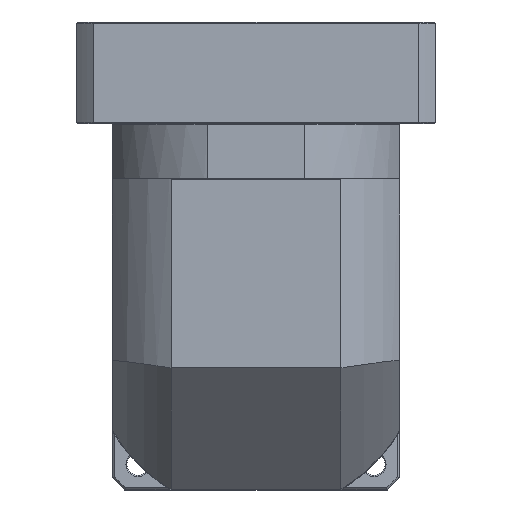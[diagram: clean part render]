
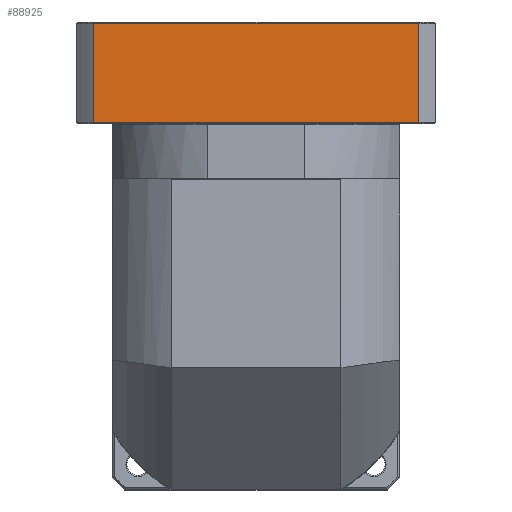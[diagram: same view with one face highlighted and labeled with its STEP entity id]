
A CAD part, top view. The second image highlights one B-rep face of the part: STEP entity #88925.
In plain terms, the highlighted planar face has unit normal (0, 0, 1).
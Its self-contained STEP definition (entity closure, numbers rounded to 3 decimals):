
#3981 = LINE ( 'NONE', #53140, #79084 ) ;
#8755 = EDGE_CURVE ( 'NONE', #89155, #93091, #26104, .T. ) ;
#9695 = DIRECTION ( 'NONE',  ( 0., 0., -1. ) ) ;
#12859 = ORIENTED_EDGE ( 'NONE', *, *, #113451, .F. ) ;
#14185 = DIRECTION ( 'NONE',  ( 0., -1., 0. ) ) ;
#23145 = VERTEX_POINT ( 'NONE', #103669 ) ;
#26104 = LINE ( 'NONE', #97884, #107764 ) ;
#33659 = EDGE_CURVE ( 'NONE', #135695, #23145, #99084, .T. ) ;
#39064 = PLANE ( 'NONE',  #70822 ) ;
#48966 = CARTESIAN_POINT ( 'NONE',  ( -167.411, 242.405, 108.978 ) ) ;
#49541 = ORIENTED_EDGE ( 'NONE', *, *, #88138, .F. ) ;
#53140 = CARTESIAN_POINT ( 'NONE',  ( -167.411, -149.9, 108.978 ) ) ;
#54306 = CARTESIAN_POINT ( 'NONE',  ( -6.426, 193.405, 108.978 ) ) ;
#63660 = DIRECTION ( 'NONE',  ( 1., 0., 0. ) ) ;
#64413 = DIRECTION ( 'NONE',  ( 0., 1., 0. ) ) ;
#70822 = AXIS2_PLACEMENT_3D ( 'NONE', #93651, #9695, #137727 ) ;
#79084 = VECTOR ( 'NONE', #64413, 1000. ) ;
#80664 = EDGE_LOOP ( 'NONE', ( #12859, #83205, #49541, #89035 ) ) ;
#83205 = ORIENTED_EDGE ( 'NONE', *, *, #8755, .F. ) ;
#87017 = LINE ( 'NONE', #111081, #103702 ) ;
#88138 = EDGE_CURVE ( 'NONE', #23145, #89155, #87017, .T. ) ;
#88925 = ADVANCED_FACE ( 'NONE', ( #90242 ), #39064, .F. ) ;
#89035 = ORIENTED_EDGE ( 'NONE', *, *, #33659, .F. ) ;
#89155 = VERTEX_POINT ( 'NONE', #54306 ) ;
#90242 = FACE_OUTER_BOUND ( 'NONE', #80664, .T. ) ;
#93091 = VERTEX_POINT ( 'NONE', #111276 ) ;
#93651 = CARTESIAN_POINT ( 'NONE',  ( 2.082, 242.905, 108.978 ) ) ;
#97362 = VECTOR ( 'NONE', #63660, 1000. ) ;
#97884 = CARTESIAN_POINT ( 'NONE',  ( 2.082, 193.405, 108.978 ) ) ;
#98323 = DIRECTION ( 'NONE',  ( -1., 0., 0. ) ) ;
#99084 = LINE ( 'NONE', #127884, #97362 ) ;
#103669 = CARTESIAN_POINT ( 'NONE',  ( -6.426, 242.405, 108.978 ) ) ;
#103702 = VECTOR ( 'NONE', #14185, 1000. ) ;
#107764 = VECTOR ( 'NONE', #98323, 1000. ) ;
#111081 = CARTESIAN_POINT ( 'NONE',  ( -6.426, -149.9, 108.978 ) ) ;
#111276 = CARTESIAN_POINT ( 'NONE',  ( -167.411, 193.405, 108.978 ) ) ;
#113451 = EDGE_CURVE ( 'NONE', #93091, #135695, #3981, .T. ) ;
#127884 = CARTESIAN_POINT ( 'NONE',  ( -15.918, 242.405, 108.978 ) ) ;
#135695 = VERTEX_POINT ( 'NONE', #48966 ) ;
#137727 = DIRECTION ( 'NONE',  ( 0., -1., 0. ) ) ;
